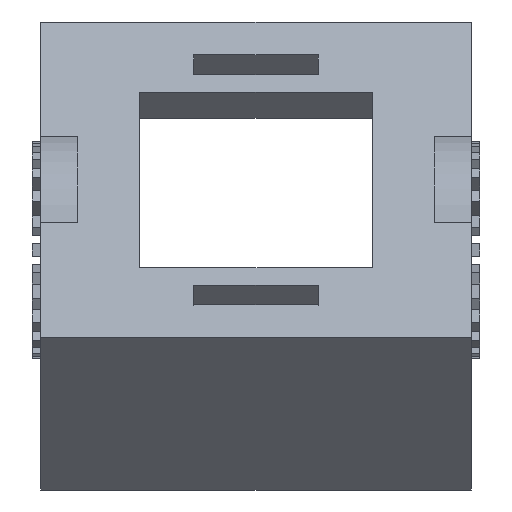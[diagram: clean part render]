
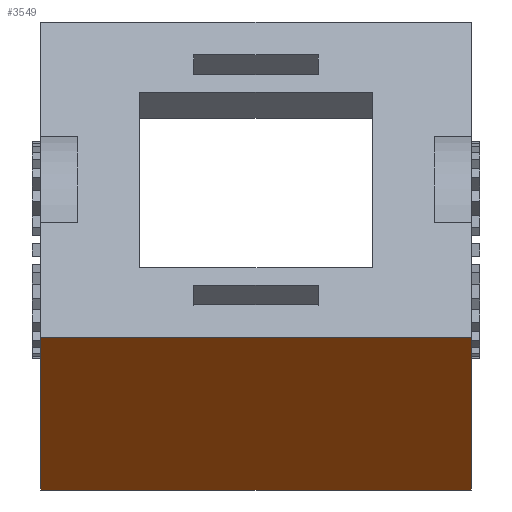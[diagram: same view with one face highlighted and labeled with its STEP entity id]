
A CAD part, left-side view. The second image highlights one B-rep face of the part: STEP entity #3549.
In plain terms, the highlighted planar face has unit normal (-0.707, 0, -0.707).
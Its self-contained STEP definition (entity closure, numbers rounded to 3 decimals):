
#22 = VERTEX_POINT('',#23);
#23 = CARTESIAN_POINT('',(35.292,-13.9,-21.657));
#32 = PLANE('',#33);
#33 = AXIS2_PLACEMENT_3D('',#34,#35,#36);
#34 = CARTESIAN_POINT('',(35.292,-13.9,-21.657));
#35 = DIRECTION('',(0.707,0.,-0.707));
#36 = DIRECTION('',(0.707,0.,0.707));
#44 = PLANE('',#45);
#45 = AXIS2_PLACEMENT_3D('',#46,#47,#48);
#46 = CARTESIAN_POINT('',(35.292,-13.9,-21.657));
#47 = DIRECTION('',(0.,1.,0.));
#48 = DIRECTION('',(0.707,0.,0.707));
#56 = EDGE_CURVE('',#57,#22,#59,.T.);
#57 = VERTEX_POINT('',#58);
#58 = CARTESIAN_POINT('',(35.292,13.9,-21.657));
#59 = SURFACE_CURVE('',#60,(#64,#71),.PCURVE_S1.);
#60 = LINE('',#61,#62);
#61 = CARTESIAN_POINT('',(35.292,13.9,-21.657));
#62 = VECTOR('',#63,1.);
#63 = DIRECTION('',(0.,-1.,0.));
#64 = PCURVE('',#32,#65);
#65 = DEFINITIONAL_REPRESENTATION('',(#66),#70);
#66 = LINE('',#67,#68);
#67 = CARTESIAN_POINT('',(0.,-27.8));
#68 = VECTOR('',#69,1.);
#69 = DIRECTION('',(0.,1.));
#70 = ( GEOMETRIC_REPRESENTATION_CONTEXT(2) 
PARAMETRIC_REPRESENTATION_CONTEXT() REPRESENTATION_CONTEXT('2D SPACE',''
  ) );
#71 = PCURVE('',#72,#77);
#72 = PLANE('',#73);
#73 = AXIS2_PLACEMENT_3D('',#74,#75,#76);
#74 = CARTESIAN_POINT('',(35.292,-13.9,-21.657));
#75 = DIRECTION('',(0.707,0.,0.707));
#76 = DIRECTION('',(0.707,0.,-0.707));
#77 = DEFINITIONAL_REPRESENTATION('',(#78),#82);
#78 = LINE('',#79,#80);
#79 = CARTESIAN_POINT('',(0.,27.8));
#80 = VECTOR('',#81,1.);
#81 = DIRECTION('',(0.,-1.));
#82 = ( GEOMETRIC_REPRESENTATION_CONTEXT(2) 
PARAMETRIC_REPRESENTATION_CONTEXT() REPRESENTATION_CONTEXT('2D SPACE',''
  ) );
#100 = PLANE('',#101);
#101 = AXIS2_PLACEMENT_3D('',#102,#103,#104);
#102 = CARTESIAN_POINT('',(35.292,13.9,-21.657));
#103 = DIRECTION('',(0.,1.,0.));
#104 = DIRECTION('',(0.707,0.,0.707));
#687 = EDGE_CURVE('',#22,#688,#690,.T.);
#688 = VERTEX_POINT('',#689);
#689 = CARTESIAN_POINT('',(45.121,-13.9,-31.486));
#690 = SURFACE_CURVE('',#691,(#695,#702),.PCURVE_S1.);
#691 = LINE('',#692,#693);
#692 = CARTESIAN_POINT('',(35.292,-13.9,-21.657));
#693 = VECTOR('',#694,1.);
#694 = DIRECTION('',(0.707,0.,-0.707));
#695 = PCURVE('',#44,#696);
#696 = DEFINITIONAL_REPRESENTATION('',(#697),#701);
#697 = LINE('',#698,#699);
#698 = CARTESIAN_POINT('',(0.,0.));
#699 = VECTOR('',#700,1.);
#700 = DIRECTION('',(0.,1.));
#701 = ( GEOMETRIC_REPRESENTATION_CONTEXT(2) 
PARAMETRIC_REPRESENTATION_CONTEXT() REPRESENTATION_CONTEXT('2D SPACE',''
  ) );
#702 = PCURVE('',#72,#703);
#703 = DEFINITIONAL_REPRESENTATION('',(#704),#708);
#704 = LINE('',#705,#706);
#705 = CARTESIAN_POINT('',(0.,0.));
#706 = VECTOR('',#707,1.);
#707 = DIRECTION('',(1.,0.));
#708 = ( GEOMETRIC_REPRESENTATION_CONTEXT(2) 
PARAMETRIC_REPRESENTATION_CONTEXT() REPRESENTATION_CONTEXT('2D SPACE',''
  ) );
#771 = PLANE('',#772);
#772 = AXIS2_PLACEMENT_3D('',#773,#774,#775);
#773 = CARTESIAN_POINT('',(45.121,-13.9,-31.486));
#774 = DIRECTION('',(0.707,0.,-0.707));
#775 = DIRECTION('',(0.707,0.,0.707));
#3549 = ADVANCED_FACE('',(#3550),#72,.F.);
#3550 = FACE_BOUND('',#3551,.F.);
#3551 = EDGE_LOOP('',(#3552,#3553,#3576,#3597));
#3552 = ORIENTED_EDGE('',*,*,#687,.T.);
#3553 = ORIENTED_EDGE('',*,*,#3554,.F.);
#3554 = EDGE_CURVE('',#3555,#688,#3557,.T.);
#3555 = VERTEX_POINT('',#3556);
#3556 = CARTESIAN_POINT('',(45.121,13.9,-31.486));
#3557 = SURFACE_CURVE('',#3558,(#3562,#3569),.PCURVE_S1.);
#3558 = LINE('',#3559,#3560);
#3559 = CARTESIAN_POINT('',(45.121,13.9,-31.486));
#3560 = VECTOR('',#3561,1.);
#3561 = DIRECTION('',(0.,-1.,0.));
#3562 = PCURVE('',#72,#3563);
#3563 = DEFINITIONAL_REPRESENTATION('',(#3564),#3568);
#3564 = LINE('',#3565,#3566);
#3565 = CARTESIAN_POINT('',(13.9,27.8));
#3566 = VECTOR('',#3567,1.);
#3567 = DIRECTION('',(0.,-1.));
#3568 = ( GEOMETRIC_REPRESENTATION_CONTEXT(2) 
PARAMETRIC_REPRESENTATION_CONTEXT() REPRESENTATION_CONTEXT('2D SPACE',''
  ) );
#3569 = PCURVE('',#771,#3570);
#3570 = DEFINITIONAL_REPRESENTATION('',(#3571),#3575);
#3571 = LINE('',#3572,#3573);
#3572 = CARTESIAN_POINT('',(0.,-27.8));
#3573 = VECTOR('',#3574,1.);
#3574 = DIRECTION('',(0.,1.));
#3575 = ( GEOMETRIC_REPRESENTATION_CONTEXT(2) 
PARAMETRIC_REPRESENTATION_CONTEXT() REPRESENTATION_CONTEXT('2D SPACE',''
  ) );
#3576 = ORIENTED_EDGE('',*,*,#3577,.F.);
#3577 = EDGE_CURVE('',#57,#3555,#3578,.T.);
#3578 = SURFACE_CURVE('',#3579,(#3583,#3590),.PCURVE_S1.);
#3579 = LINE('',#3580,#3581);
#3580 = CARTESIAN_POINT('',(35.292,13.9,-21.657));
#3581 = VECTOR('',#3582,1.);
#3582 = DIRECTION('',(0.707,0.,-0.707));
#3583 = PCURVE('',#72,#3584);
#3584 = DEFINITIONAL_REPRESENTATION('',(#3585),#3589);
#3585 = LINE('',#3586,#3587);
#3586 = CARTESIAN_POINT('',(0.,27.8));
#3587 = VECTOR('',#3588,1.);
#3588 = DIRECTION('',(1.,0.));
#3589 = ( GEOMETRIC_REPRESENTATION_CONTEXT(2) 
PARAMETRIC_REPRESENTATION_CONTEXT() REPRESENTATION_CONTEXT('2D SPACE',''
  ) );
#3590 = PCURVE('',#100,#3591);
#3591 = DEFINITIONAL_REPRESENTATION('',(#3592),#3596);
#3592 = LINE('',#3593,#3594);
#3593 = CARTESIAN_POINT('',(0.,0.));
#3594 = VECTOR('',#3595,1.);
#3595 = DIRECTION('',(0.,1.));
#3596 = ( GEOMETRIC_REPRESENTATION_CONTEXT(2) 
PARAMETRIC_REPRESENTATION_CONTEXT() REPRESENTATION_CONTEXT('2D SPACE',''
  ) );
#3597 = ORIENTED_EDGE('',*,*,#56,.T.);
